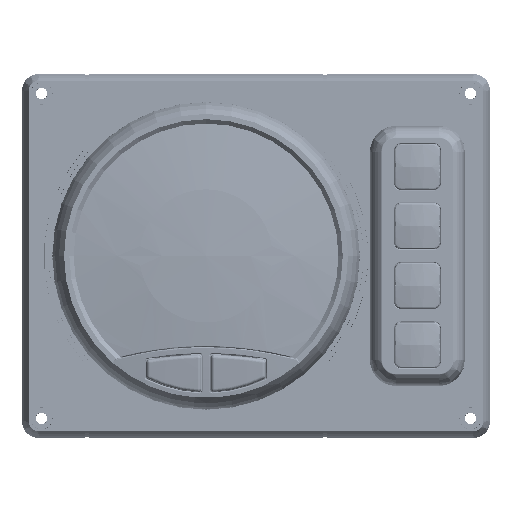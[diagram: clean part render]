
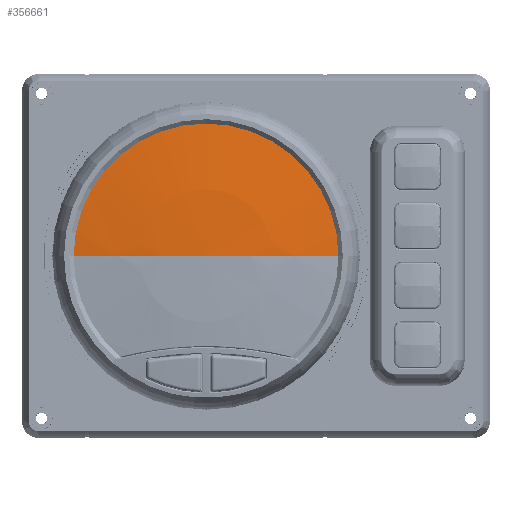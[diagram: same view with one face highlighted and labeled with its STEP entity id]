
A CAD part, top view. The second image highlights one B-rep face of the part: STEP entity #356661.
In plain terms, the highlighted spherical face has radius 388.328 mm.
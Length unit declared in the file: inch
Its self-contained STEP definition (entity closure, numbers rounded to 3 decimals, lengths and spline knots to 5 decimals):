
#353143=CARTESIAN_POINT('',(0.,-14.72851,0.));
#353144=DIRECTION('',(0.,0.,-1.));
#353145=DIRECTION('',(0.,1.,0.));
#353146=AXIS2_PLACEMENT_3D('',#353143,#353144,#353145);
#353203=CARTESIAN_POINT('',(0.,0.42732,0.));
#353204=DIRECTION('',(0.,-1.,0.));
#353205=DIRECTION('',(-1.,0.,0.));
#353206=AXIS2_PLACEMENT_3D('',#353203,#353204,#353205);
#353208=CARTESIAN_POINT('',(0.,0.42732,0.));
#353209=DIRECTION('',(0.,-1.,0.));
#353210=DIRECTION('',(-1.,0.,-0.005));
#353211=AXIS2_PLACEMENT_3D('',#353208,#353209,#353210);
#353213=CARTESIAN_POINT('',(0.,-14.72851,0.));
#353214=DIRECTION('',(0.,0.,1.));
#353215=DIRECTION('',(0.,1.,0.));
#353216=AXIS2_PLACEMENT_3D('',#353213,#353214,#353215);
#355877=CARTESIAN_POINT('',(-2.00978,0.42732,0.));
#355878=VERTEX_POINT('',#355877);
#355879=CARTESIAN_POINT('',(0.,0.56,0.));
#355880=VERTEX_POINT('',#355879);
#355881=CARTESIAN_POINT('',(2.00978,0.42732,0.));
#355882=VERTEX_POINT('',#355881);
#355890=CARTESIAN_POINT('',(-2.00976,0.42732,
-0.00953));
#355891=VERTEX_POINT('',#355890);
#356650=CARTESIAN_POINT('',(0.,-14.72851,0.));
#356651=DIRECTION('',(0.,-1.,0.));
#356652=DIRECTION('',(-1.,0.,0.));
#356653=AXIS2_PLACEMENT_3D('',#356650,#356651,#356652);
#356654=SPHERICAL_SURFACE('',#356653,15.28851);
#356655=ORIENTED_EDGE('',*,*,#356632,.T.);
#356656=ORIENTED_EDGE('',*,*,#356630,.T.);
#356657=ORIENTED_EDGE('',*,*,#356423,.F.);
#356658=ORIENTED_EDGE('',*,*,#356421,.T.);
#356659=EDGE_LOOP('',(#356655,#356656,#356657,#356658));
#356660=FACE_OUTER_BOUND('',#356659,.F.);
#356661=ADVANCED_FACE('',(#356660),#356654,.T.);
#353147=CIRCLE('',#353146,15.28851);
#353207=CIRCLE('',#353206,2.00978);
#353212=CIRCLE('',#353211,2.00978);
#353217=CIRCLE('',#353216,15.28851);
#356421=EDGE_CURVE('',#355880,#355878,#353217,.T.);
#356423=EDGE_CURVE('',#355880,#355882,#353147,.T.);
#356630=EDGE_CURVE('',#355891,#355882,#353212,.T.);
#356632=EDGE_CURVE('',#355878,#355891,#353207,.T.);
